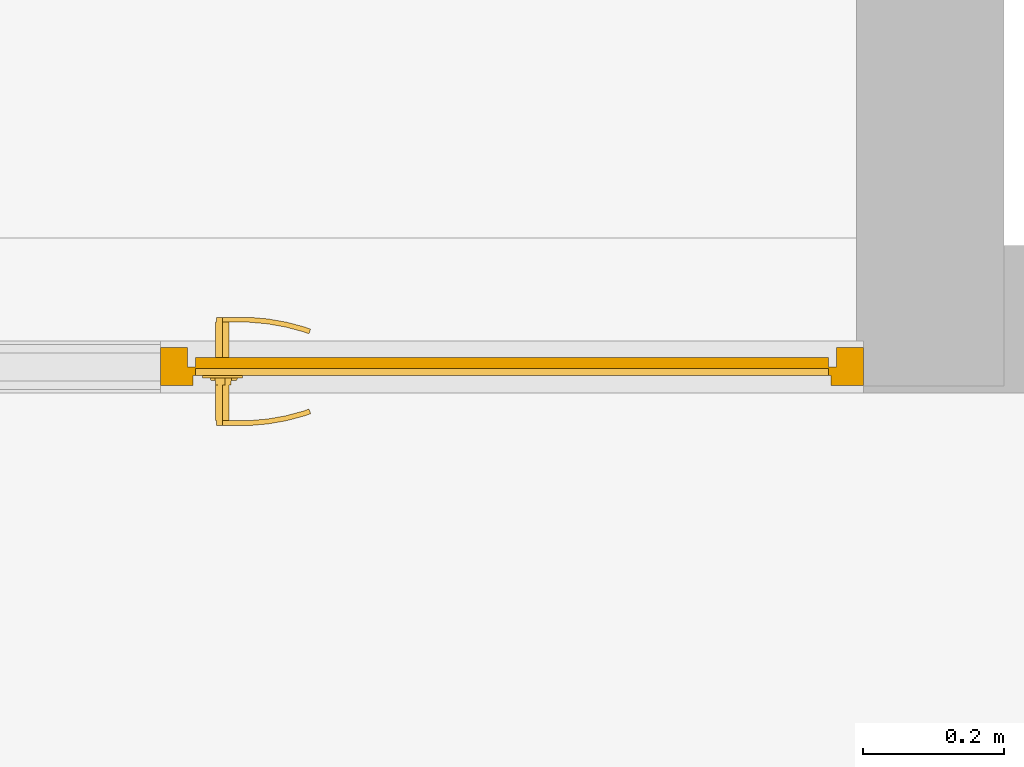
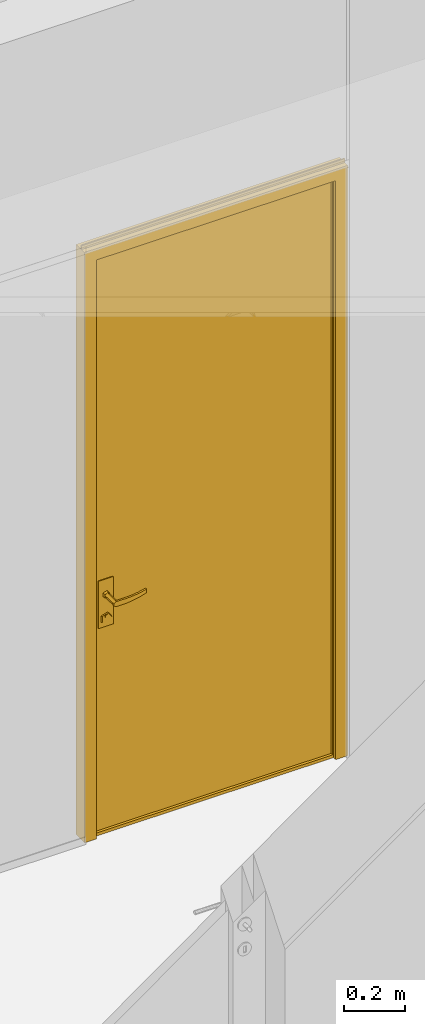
# One storey, part 52 of 79: 1 door, 1 element without a shape of its own.
"""IFC2X3 building model written with IfcOpenShell, lengths in millimetres."""

from ifc_helpers import new_model, entity, si_unit, converted_unit, derived_unit, money_unit, direction, frame, origin_with_axes, place, context, subcontext, project, spatial, open_shell, faceted_brep, surface_model, material, material_list, type_object, element, aggregate, save


model = new_model("IFC2X3")

# Units and contexts
model_context = context("Model", 3, precision=0.01, world=origin_with_axes(), true_north=direction((0.0, 1.0)))
body_context = subcontext(model_context, "Body", "Model", "MODEL_VIEW")
ifc_project = project(units=[si_unit("LENGTHUNIT", "METRE", prefix="MILLI"), si_unit("AREAUNIT", "SQUARE_METRE"), si_unit("VOLUMEUNIT", "CUBIC_METRE"), converted_unit("PLANEANGLEUNIT", "DEGREE", entity("IfcPlaneAngleMeasure", 0.0174532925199), si_unit("PLANEANGLEUNIT", "RADIAN"), dimensions=[0, 0, 0, 0, 0, 0, 0]), si_unit("SOLIDANGLEUNIT", "STERADIAN"), money_unit("EUR"), converted_unit("TIMEUNIT", "Year", entity("IfcTimeMeasure", 31556926.0), si_unit("TIMEUNIT", "SECOND"), dimensions=[0, 0, 1, 0, 0, 0, 0]), si_unit("MASSUNIT", "GRAM", prefix="KILO"), si_unit("THERMODYNAMICTEMPERATUREUNIT", "DEGREE_CELSIUS"), si_unit("LUMINOUSINTENSITYUNIT", "LUMEN"), si_unit("ENERGYUNIT", "JOULE", prefix="MEGA"), derived_unit("THERMALCONDUCTANCEUNIT", [(si_unit("POWERUNIT", "WATT"), 1), (si_unit("LENGTHUNIT", "METRE"), -1), (si_unit("THERMODYNAMICTEMPERATUREUNIT", "KELVIN"), -1)]), derived_unit("SPECIFICHEATCAPACITYUNIT", [(si_unit("ENERGYUNIT", "JOULE"), 1), (si_unit("MASSUNIT", "GRAM", prefix="KILO"), -1), (si_unit("THERMODYNAMICTEMPERATUREUNIT", "KELVIN"), -1)]), derived_unit("MASSDENSITYUNIT", [(si_unit("MASSUNIT", "GRAM", prefix="KILO"), 1), (si_unit("VOLUMEUNIT", "CUBIC_METRE"), -1)])], contexts=[model_context])

# Site, building, storey
site_placement = place(None, origin_with_axes())
site = spatial("IfcSite", under=ifc_project, at=site_placement, Name="L.Koidula tn 11b", CompositionType="ELEMENT")
building_placement = place(site_placement, origin_with_axes())
building = spatial("IfcBuilding", under=site, at=building_placement, Name="Rakvere Riigigümnaasium", CompositionType="ELEMENT")
storey_placement = place(building_placement, frame((0.0, 0.0, 3720.0), z_axis=(0.0, 0.0, 1.0), x_axis=(1.0, 0.0, 0.0)))
storey = spatial("IfcBuildingStorey", under=building, at=storey_placement, Name="2.korrus +3,72", CompositionType="ELEMENT", Elevation=3720.0)

# Curtain wall, door
curtain_wall_type = type_object("IfcCurtainWallType", Name="Curtain Wall Type", PredefinedType="NOTDEFINED")
curtain_wall_placement = place(storey_placement, frame((45299.9999374, 15122.4785302, 0.0), z_axis=(0.0, 0.0, 1.0), x_axis=(1.0, 0.0, 0.0)))
curtain_wall = element("IfcCurtainWall", 1, at=curtain_wall_placement, inside=storey, type_object=curtain_wall_type, Name="SKLF-11")
ifc_material_1 = material(Name="Alumiiniumprofiil")
ifc_material_2 = material(Name="VKR-05_Klaas")
ifc_material_3 = material(Name="ET-07_Teras - Roostevaba")
ifc_material_list = material_list([ifc_material_1, ifc_material_2, ifc_material_3])
door_style = type_object("IfcDoorStyle", Name="Siseklaasfassaad - Klaasuks-Doubleline 1000 x 2385 x -5", ConstructionType="NOTDEFINED", OperationType="NOTDEFINED", ParameterTakesPrecedence=False, Sizeable=False)
door_placement = place(curtain_wall_placement, frame((1200.0000282, 0.0, 1200.00000581), z_axis=(0.0, 0.0, 1.0), x_axis=(-1.0, 0.0, 0.0)))
door = element("IfcDoor", 2, at=door_placement, type_object=door_style, material=ifc_material_list, Name="Panel-Siseklaasf-010", ObjectType="DOOR", context=body_context, shape_type="SurfaceModel", body=[
    faceted_brep([(-500.000012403, 7.5, -1200.00000581), (-500.000012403, 7.5, 1169.9999699), (-500.000012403, 21.5, 1169.9999699), (-500.000012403, 21.5, -1200.00000581), (-454.000012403, 7.5, -1200.00000581), (-454.000012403, 7.5, 1123.9999699), (-454.000012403, 21.5, 1123.9999699), (-454.000012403, 21.5, -1200.00000581)], [[[0, 1, 2, 3]], [[0, 4, 5, 1]], [[1, 5, 6, 2]], [[3, 2, 6, 7]], [[4, 0, 3, 7]], [[5, 4, 7, 6]]]),
    faceted_brep([(500.000028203, 7.5, 1169.9999699), (454.000028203, 7.5, 1123.9999699), (454.000028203, 21.5, 1123.9999699), (500.000028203, 21.5, 1169.9999699), (-500.000012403, 7.5, 1169.9999699), (-454.000012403, 7.5, 1123.9999699), (-454.000012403, 21.5, 1123.9999699), (-500.000012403, 21.5, 1169.9999699)], [[[0, 1, 2, 3]], [[0, 4, 5, 1]], [[1, 5, 6, 2]], [[3, 2, 6, 7]], [[4, 0, 3, 7]], [[5, 4, 7, 6]]]),
    faceted_brep([(500.000028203, 7.5, -1200.00000581), (454.000028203, 7.5, -1200.00000581), (454.000028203, 21.5, -1200.00000581), (500.000028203, 21.5, -1200.00000581), (500.000028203, 7.5, 1169.9999699), (454.000028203, 7.5, 1123.9999699), (454.000028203, 21.5, 1123.9999699), (500.000028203, 21.5, 1169.9999699)], [[[0, 1, 2, 3]], [[0, 4, 5, 1]], [[1, 5, 6, 2]], [[3, 2, 6, 7]], [[4, 0, 3, 7]], [[5, 4, 7, 6]]]),
    faceted_brep([(-500.000012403, -32.5, -1200.00000581), (-500.000012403, -32.5, 1169.9999699), (-500.000012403, 7.5, 1169.9999699), (-500.000012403, 7.5, -1200.00000581), (-462.000012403, -32.5, -1200.00000581), (-462.000012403, -32.5, 1131.9999699), (-462.000012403, 7.5, 1131.9999699), (-462.000012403, 7.5, -1200.00000581)], [[[0, 1, 2, 3]], [[0, 4, 5, 1]], [[1, 5, 6, 2]], [[3, 2, 6, 7]], [[4, 0, 3, 7]], [[5, 4, 7, 6]]]),
    faceted_brep([(500.000028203, -32.5, 1169.9999699), (462.000028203, -32.5, 1131.9999699), (462.000028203, 7.5, 1131.9999699), (500.000028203, 7.5, 1169.9999699), (-500.000012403, -32.5, 1169.9999699), (-462.000012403, -32.5, 1131.9999699), (-462.000012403, 7.5, 1131.9999699), (-500.000012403, 7.5, 1169.9999699)], [[[0, 1, 2, 3]], [[0, 4, 5, 1]], [[1, 5, 6, 2]], [[3, 2, 6, 7]], [[4, 0, 3, 7]], [[5, 4, 7, 6]]]),
    faceted_brep([(500.000028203, -32.5, -1200.00000581), (462.000028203, -32.5, -1200.00000581), (462.000028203, 7.5, -1200.00000581), (500.000028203, 7.5, -1200.00000581), (500.000028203, -32.5, 1169.9999699), (462.000028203, -32.5, 1131.9999699), (462.000028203, 7.5, 1131.9999699), (500.000028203, 7.5, 1169.9999699)], [[[0, 1, 2, 3]], [[0, 4, 5, 1]], [[1, 5, 6, 2]], [[3, 2, 6, 7]], [[4, 0, 3, 7]], [[5, 4, 7, 6]]]),
    faceted_brep([(-500.000012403, -2.5, 1185.00000574), (500.000028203, -2.5, 1185.00000574), (500.000028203, 2.5, 1185.00000574), (-500.000012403, 2.5, 1185.00000574), (-500.000012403, -2.5, 1169.9999699), (500.000028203, -2.5, 1169.9999699), (500.000028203, 2.5, 1169.9999699), (-500.000012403, 2.5, 1169.9999699)], [[[0, 1, 2, 3]], [[0, 4, 5, 1]], [[1, 5, 6, 2]], [[3, 2, 6, 7]], [[4, 0, 3, 7]], [[5, 4, 7, 6]]]),
    faceted_brep([(450.000028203, 7.5, -1188.00000581), (450.000028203, -4.5, -1188.00000581), (450.000028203, -4.5, 1119.9999699), (450.000028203, 7.5, 1119.9999699), (462.000028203, 7.5, -1200.00000581), (462.000028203, -4.5, -1200.00000581), (462.000028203, -4.5, 1131.9999699), (462.000028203, 7.5, 1131.9999699)], [[[0, 1, 2, 3]], [[4, 5, 1, 0]], [[1, 5, 6, 2]], [[3, 2, 6, 7]], [[0, 3, 7, 4]], [[7, 6, 5, 4]]]),
    faceted_brep([(-462.000012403, 7.5, -1200.00000581), (-462.000012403, -4.5, -1200.00000581), (-462.000012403, -4.5, 1131.9999699), (-462.000012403, 7.5, 1131.9999699), (-450.000012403, 7.5, -1188.00000581), (-450.000012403, -4.5, -1188.00000581), (-450.000012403, -4.5, 1119.9999699), (-450.000012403, 7.5, 1119.9999699)], [[[0, 1, 2, 3]], [[4, 5, 1, 0]], [[1, 5, 6, 2]], [[3, 2, 6, 7]], [[0, 3, 7, 4]], [[7, 6, 5, 4]]]),
    faceted_brep([(-462.000012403, 7.5, -1200.00000581), (-462.000012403, -4.5, -1200.00000581), (-450.000012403, -4.5, -1188.00000581), (-450.000012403, 7.5, -1188.00000581), (462.000028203, 7.5, -1200.00000581), (462.000028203, -4.5, -1200.00000581), (450.000028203, -4.5, -1188.00000581), (450.000028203, 7.5, -1188.00000581)], [[[0, 1, 2, 3]], [[4, 5, 1, 0]], [[1, 5, 6, 2]], [[3, 2, 6, 7]], [[0, 3, 7, 4]], [[7, 6, 5, 4]]]),
    faceted_brep([(462.000028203, 7.5, 1131.9999699), (462.000028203, -4.5, 1131.9999699), (450.000028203, -4.5, 1119.9999699), (450.000028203, 7.5, 1119.9999699), (-462.000012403, 7.5, 1131.9999699), (-462.000012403, -4.5, 1131.9999699), (-450.000012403, -4.5, 1119.9999699), (-450.000012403, 7.5, 1119.9999699)], [[[0, 1, 2, 3]], [[4, 5, 1, 0]], [[1, 5, 6, 2]], [[3, 2, 6, 7]], [[0, 3, 7, 4]], [[7, 6, 5, 4]]]),
    faceted_brep([(450.000028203, -2.5, -1188.00000581), (450.000028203, -18.5, -1188.00000581), (-450.000012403, -18.5, -1188.00000581), (-450.000012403, -2.5, -1188.00000581), (450.000028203, -2.5, 1119.9999699), (450.000028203, -18.5, 1119.9999699), (-450.000012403, -18.5, 1119.9999699), (-450.000012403, -2.5, 1119.9999699)], [[[0, 1, 2, 3]], [[4, 5, 1, 0]], [[1, 5, 6, 2]], [[3, 2, 6, 7]], [[0, 3, 7, 4]], [[7, 6, 5, 4]]]),
    faceted_brep([(440.500028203, -4.5, -178.000005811), (383.500028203, -4.5, -178.000005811), (383.500028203, -7.5, -178.000005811), (440.500028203, -7.5, -178.000005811), (440.500028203, -4.5, -368.000005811), (383.500028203, -4.5, -368.000005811), (383.500028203, -7.5, -368.000005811), (440.500028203, -7.5, -368.000005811)], [[[0, 1, 2, 3]], [[0, 4, 5, 1]], [[1, 5, 6, 2]], [[3, 2, 6, 7]], [[4, 0, 3, 7]], [[5, 4, 7, 6]]]),
    surface_model("IfcShellBasedSurfaceModel", [(412.000028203, -68.5, -248.000005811), (420.660282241, -68.5, -243.000005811), (420.660282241, -75.5, -243.000005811), (412.000028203, -75.5, -248.000005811), (387.000028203, -68.5, -248.000005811), (387.000028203, -68.5, -228.000005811), (412.000028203, -68.5, -228.000005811), (420.660282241, -68.5, -233.000005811), (420.660282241, -75.5, -233.000005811), (412.000028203, -75.5, -228.000005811), (387.000028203, -75.5, -228.000005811), (387.000028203, -75.5, -248.000005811)], [open_shell([[[0, 1, 2, 3]], [[0, 4, 5, 6, 7, 1]], [[1, 7, 8, 2]], [[3, 2, 8, 9, 10, 11]], [[4, 0, 3, 11]], [[6, 5, 10, 9]], [[7, 6, 9, 8]]])]),
    surface_model("IfcShellBasedSurfaceModel", [(387.000028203, -68.5, -228.000005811), (373.90174533, -68.5, -228.392704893), (373.59611873, -75.5, -228.392704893), (387.000028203, -68.5, -248.000005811), (373.90174533, -68.5, -247.60730673), (346.890311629, -73.1635446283, -229.178103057), (387.000028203, -75.5, -228.000005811), (387.000028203, -75.5, -248.000005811), (347.804865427, -66.216818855, -246.821908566), (347.804865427, -66.216818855, -229.178103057), (346.890311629, -73.1635446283, -246.821908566), (373.59611873, -75.5, -247.60730673), (322.006284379, -61.6678329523, -246.036510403), (322.006284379, -61.6678329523, -229.96350122), (320.489763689, -68.5084157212, -229.96350122), (320.489763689, -68.5084157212, -246.036510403), (296.702344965, -54.8876628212, -245.25111224), (296.702344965, -54.8876628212, -230.748899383), (294.595399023, -61.5700416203, -230.748899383), (294.595399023, -61.5700416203, -245.25111224), (288.829470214, -52.0221707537, -245.000005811), (288.829470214, -52.0221707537, -231.000005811), (286.538823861, -58.6376880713, -231.000005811), (286.538823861, -58.6376880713, -245.000005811)], [open_shell([[[0, 1, 2]], [[0, 3, 4, 1]], [[1, 5, 2]], [[0, 2, 6]], [[4, 3, 7]], [[1, 4, 8, 9]], [[1, 9, 5]], [[2, 5, 10, 11]], [[6, 2, 11, 7]], [[4, 7, 11]], [[8, 4, 11]], [[9, 8, 12, 13]], [[9, 14, 5]], [[5, 14, 15, 10]], [[8, 11, 10]], [[12, 8, 10]], [[13, 12, 16, 17]], [[9, 13, 14]], [[14, 18, 19, 15]], [[12, 10, 15]], [[16, 12, 15]], [[17, 16, 20, 21]], [[13, 17, 18]], [[13, 18, 14]], [[18, 22, 23, 19]], [[16, 15, 19]], [[20, 16, 19]], [[21, 20, 23, 22]], [[17, 21, 22]], [[17, 22, 18]], [[20, 19, 23]]])]),
    faceted_brep([(408.29182427, -17.5, -249.412684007), (400.000028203, -17.5, -238.000005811), (399.000028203, -7.5, -238.000005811), (407.982807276, -7.5, -250.363740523), (421.708232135, -17.5, -245.053428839), (421.708232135, -17.5, -230.946582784), (408.29182427, -17.5, -226.587327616), (407.982807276, -7.5, -225.6362711), (422.51724913, -7.5, -230.358797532), (422.51724913, -7.5, -245.641214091)], [[[0, 1, 2, 3]], [[1, 0, 4, 5, 6]], [[1, 6, 7, 2]], [[2, 7, 8, 9, 3]], [[4, 0, 3, 9]], [[5, 4, 9, 8]], [[6, 5, 8, 7]]]),
    faceted_brep([(405.819688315, -11.5, -352.021136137), (392.000028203, -11.5, -333.000005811), (390.000028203, -7.5, -333.000005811), (405.201654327, -7.5, -353.92324917), (428.18036809, -11.5, -344.755710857), (428.18036809, -11.5, -321.244300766), (405.819688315, -11.5, -313.978875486), (405.201654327, -7.5, -312.076762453), (429.798402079, -7.5, -320.068730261), (429.798402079, -7.5, -345.931281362)], [[[0, 1, 2, 3]], [[1, 0, 4, 5, 6]], [[1, 6, 7, 2]], [[2, 7, 8, 9, 3]], [[4, 0, 3, 9]], [[5, 4, 9, 8]], [[6, 5, 8, 7]]]),
    faceted_brep([(409.836909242, -13.5, -330.657401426), (405.000028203, -13.5, -324.000005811), (404.000028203, -11.5, -324.000005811), (409.527892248, -11.5, -331.608457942), (417.663147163, -13.5, -328.114502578), (417.663147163, -13.5, -319.885509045), (409.836909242, -13.5, -317.342610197), (409.527892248, -11.5, -316.391553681), (418.472164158, -11.5, -319.297723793), (418.472164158, -11.5, -328.70228783)], [[[0, 1, 2, 3]], [[1, 0, 4, 5, 6]], [[1, 6, 7, 2]], [[2, 7, 8, 9, 3]], [[4, 0, 3, 9]], [[5, 4, 9, 8]], [[6, 5, 8, 7]]]),
    faceted_brep([(412.000028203, -17.5, -228.000005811), (402.48946304, -17.5, -234.909835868), (402.48946304, -68.5, -234.909835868), (412.000028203, -68.5, -228.000005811), (421.510593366, -17.5, -234.909835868), (417.877880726, -17.5, -246.090175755), (406.12217568, -17.5, -246.090175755), (406.12217568, -68.5, -246.090175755), (417.877880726, -68.5, -246.090175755), (421.510593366, -68.5, -234.909835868)], [[[0, 1, 2, 3]], [[0, 4, 5, 6, 1]], [[1, 6, 7, 2]], [[3, 2, 7, 8, 9]], [[4, 0, 3, 9]], [[5, 4, 9, 8]], [[6, 5, 8, 7]]]),
    faceted_brep([(440.500028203, 7.5, -178.000005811), (440.500028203, 10.5, -178.000005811), (383.500028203, 10.5, -178.000005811), (383.500028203, 7.5, -178.000005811), (440.500028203, 7.5, -368.000005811), (440.500028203, 10.5, -368.000005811), (383.500028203, 10.5, -368.000005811), (383.500028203, 7.5, -368.000005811)], [[[0, 1, 2, 3]], [[4, 5, 1, 0]], [[1, 5, 6, 2]], [[3, 2, 6, 7]], [[0, 3, 7, 4]], [[7, 6, 5, 4]]]),
    surface_model("IfcShellBasedSurfaceModel", [(412.000028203, 71.5, -248.000005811), (412.000028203, 78.5, -248.000005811), (420.660282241, 78.5, -243.000005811), (420.660282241, 71.5, -243.000005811), (387.000028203, 71.5, -248.000005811), (387.000028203, 78.5, -248.000005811), (387.000028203, 78.5, -228.000005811), (412.000028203, 78.5, -228.000005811), (420.660282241, 78.5, -233.000005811), (420.660282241, 71.5, -233.000005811), (412.000028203, 71.5, -228.000005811), (387.000028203, 71.5, -228.000005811)], [open_shell([[[0, 1, 2, 3]], [[4, 5, 1, 0]], [[1, 5, 6, 7, 8, 2]], [[3, 2, 8, 9]], [[0, 3, 9, 10, 11, 4]], [[10, 7, 6, 11]], [[9, 8, 7, 10]]])]),
    surface_model("IfcShellBasedSurfaceModel", [(387.000028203, 71.5, -228.000005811), (373.59611873, 78.5, -228.392704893), (373.90174533, 71.5, -228.392704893), (387.000028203, 78.5, -228.000005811), (346.890311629, 76.1635446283, -229.178103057), (373.90174533, 71.5, -247.60730673), (387.000028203, 71.5, -248.000005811), (387.000028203, 78.5, -248.000005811), (373.59611873, 78.5, -247.60730673), (346.890311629, 76.1635446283, -246.821908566), (347.804865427, 69.216818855, -229.178103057), (347.804865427, 69.216818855, -246.821908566), (320.489763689, 71.5084157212, -246.036510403), (320.489763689, 71.5084157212, -229.96350122), (322.006284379, 64.6678329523, -229.96350122), (322.006284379, 64.6678329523, -246.036510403), (294.595399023, 64.5700416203, -245.25111224), (294.595399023, 64.5700416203, -230.748899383), (296.702344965, 57.8876628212, -230.748899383), (296.702344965, 57.8876628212, -245.25111224), (286.538823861, 61.6376880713, -245.000005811), (286.538823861, 61.6376880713, -231.000005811), (288.829470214, 55.0221707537, -231.000005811), (288.829470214, 55.0221707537, -245.000005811)], [open_shell([[[0, 1, 2]], [[0, 3, 1]], [[2, 1, 4]], [[0, 2, 5, 6]], [[3, 7, 8, 1]], [[1, 8, 9, 4]], [[2, 4, 10]], [[2, 10, 11, 5]], [[5, 7, 6]], [[5, 8, 7]], [[11, 9, 8]], [[4, 9, 12, 13]], [[10, 4, 13]], [[10, 14, 15, 11]], [[11, 8, 5]], [[15, 9, 11]], [[15, 12, 9]], [[13, 12, 16, 17]], [[10, 13, 14]], [[14, 18, 19, 15]], [[19, 12, 15]], [[19, 16, 12]], [[17, 16, 20, 21]], [[14, 13, 17]], [[14, 17, 18]], [[18, 22, 23, 19]], [[23, 16, 19]], [[23, 20, 16]], [[22, 21, 20, 23]], [[18, 17, 21]], [[18, 21, 22]]])]),
    faceted_brep([(408.29182427, 20.5, -249.412684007), (407.982807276, 10.5, -250.363740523), (399.000028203, 10.5, -238.000005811), (400.000028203, 20.5, -238.000005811), (421.708232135, 20.5, -245.053428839), (422.51724913, 10.5, -245.641214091), (422.51724913, 10.5, -230.358797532), (407.982807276, 10.5, -225.6362711), (408.29182427, 20.5, -226.587327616), (421.708232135, 20.5, -230.946582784)], [[[0, 1, 2, 3]], [[4, 5, 1, 0]], [[2, 1, 5, 6, 7]], [[3, 2, 7, 8]], [[3, 8, 9, 4, 0]], [[9, 6, 5, 4]], [[8, 7, 6, 9]]]),
    faceted_brep([(405.819688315, 14.5, -352.021136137), (405.201654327, 10.5, -353.92324917), (390.000028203, 10.5, -333.000005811), (392.000028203, 14.5, -333.000005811), (428.18036809, 14.5, -344.755710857), (429.798402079, 10.5, -345.931281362), (429.798402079, 10.5, -320.068730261), (405.201654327, 10.5, -312.076762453), (405.819688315, 14.5, -313.978875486), (428.18036809, 14.5, -321.244300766)], [[[0, 1, 2, 3]], [[4, 5, 1, 0]], [[2, 1, 5, 6, 7]], [[3, 2, 7, 8]], [[3, 8, 9, 4, 0]], [[9, 6, 5, 4]], [[8, 7, 6, 9]]]),
    faceted_brep([(409.836909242, 16.5, -330.657401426), (409.527892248, 14.5, -331.608457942), (404.000028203, 14.5, -324.000005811), (405.000028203, 16.5, -324.000005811), (417.663147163, 16.5, -328.114502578), (418.472164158, 14.5, -328.70228783), (418.472164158, 14.5, -319.297723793), (409.527892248, 14.5, -316.391553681), (409.836909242, 16.5, -317.342610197), (417.663147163, 16.5, -319.885509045)], [[[0, 1, 2, 3]], [[4, 5, 1, 0]], [[2, 1, 5, 6, 7]], [[3, 2, 7, 8]], [[3, 8, 9, 4, 0]], [[9, 6, 5, 4]], [[8, 7, 6, 9]]]),
    faceted_brep([(412.000028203, 20.5, -228.000005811), (412.000028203, 71.5, -228.000005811), (402.48946304, 71.5, -234.909835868), (402.48946304, 20.5, -234.909835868), (421.510593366, 20.5, -234.909835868), (421.510593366, 71.5, -234.909835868), (417.877880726, 71.5, -246.090175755), (406.12217568, 71.5, -246.090175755), (406.12217568, 20.5, -246.090175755), (417.877880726, 20.5, -246.090175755)], [[[0, 1, 2, 3]], [[4, 5, 1, 0]], [[1, 5, 6, 7, 2]], [[3, 2, 7, 8]], [[0, 3, 8, 9, 4]], [[9, 6, 5, 4]], [[8, 7, 6, 9]]]),
])
aggregate(curtain_wall, [door])

save(model, "model.ifc")
